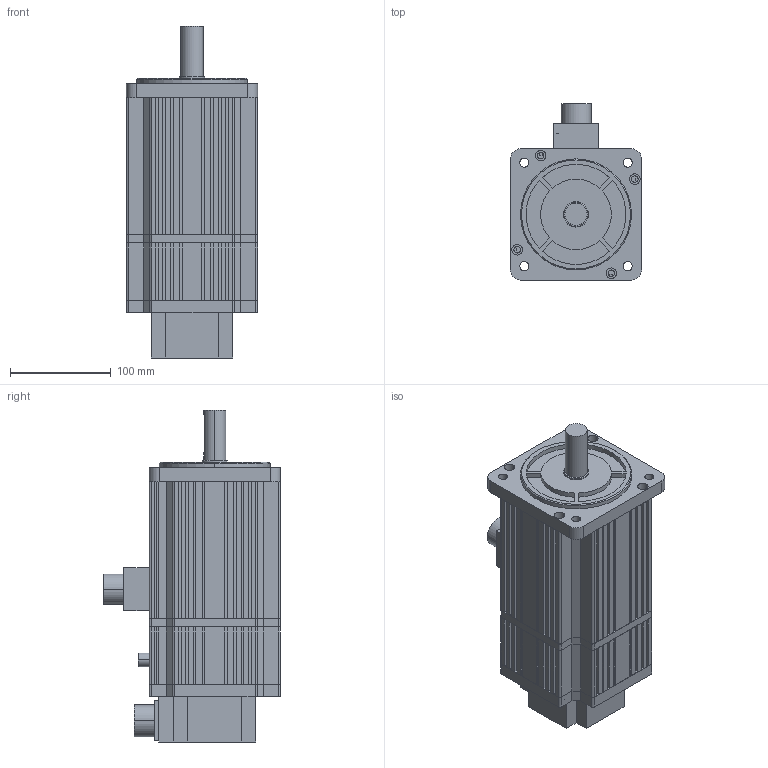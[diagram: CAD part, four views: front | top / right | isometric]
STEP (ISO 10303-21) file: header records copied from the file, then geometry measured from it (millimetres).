
FILE_DESCRIPTION (( 'STEP AP203' ), '1' );
FILE_NAME ('130-10025(带抱闸）.STEP', '2020-03-09T13:44:39', ( '' ), ( '' ), 'SwSTEP 2.0', 'SolidWorks 2016', '' );
FILE_SCHEMA (( 'CONFIG_CONTROL_DESIGN' ));
Length unit declared in the file: millimetre
Products named in the file (12): 130粣_1; 130侜督ヶ裔_1; 130-10025(带抱闸）; 130惕掅蚾饜极_1; 130瑤脣2_1; 130惕掅儂褲_1; 130晤鎢ん_1; 惕掅芛_1; 130-10N-1500隅赽; 130瑤脣_1; 130侜督惕掅傷裔_1; 130侜督綴裔_1
Assembly tree (11 placements, depth 3):
  130-10025(带抱闸）
    130-10N-1500隅赽
    130侜督ヶ裔_1
    130侜督綴裔_1
    130晤鎢ん_1
    130粣_1
    130瑤脣2_1
    130瑤脣_1
    130惕掅蚾饜极_1
      130惕掅儂褲_1
      130侜督惕掅傷裔_1
      惕掅芛_1
Bounding box: 130 x 175 x 329 mm (x, y, z)
Volume: 1391363.5 mm3; surface area: 444676.7 mm2
Topology: 14 solids, 14 shells, 804 faces, 2085 edges, 1372 vertices
Faces by surface type: plane 545, cylinder 239, cone 10, bspline 8, torus 2
Entity records: 25902 total; most frequent: CARTESIAN_POINT 4524, ORIENTED_EDGE 4154, DIRECTION 4143, EDGE_CURVE 2077, VECTOR 1521, LINE 1521, VERTEX_POINT 1372, AXIS2_PLACEMENT_3D 1311
